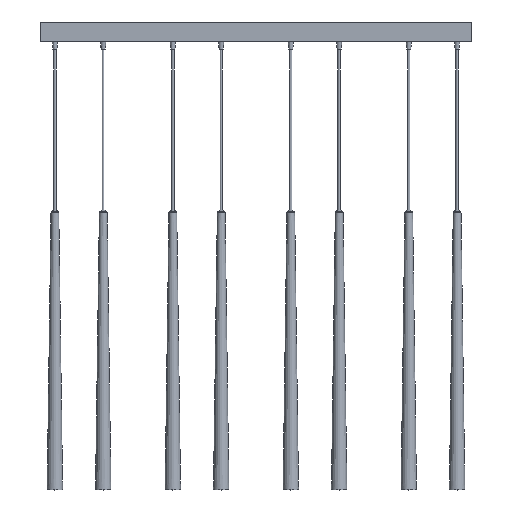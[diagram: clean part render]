
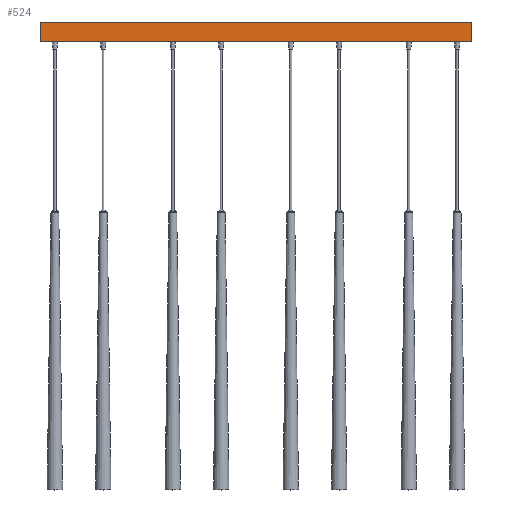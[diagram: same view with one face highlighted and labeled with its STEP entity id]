
A CAD part, top view. The second image highlights one B-rep face of the part: STEP entity #524.
In plain terms, the highlighted planar face has unit normal (0, 0, 1).
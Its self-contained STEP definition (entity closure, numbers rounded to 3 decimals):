
#84=PLANE('',#607);
#109=LINE('',#945,#141);
#112=LINE('',#951,#144);
#113=LINE('',#955,#145);
#114=LINE('',#956,#146);
#141=VECTOR('',#761,10.);
#144=VECTOR('',#766,10.);
#145=VECTOR('',#769,10.);
#146=VECTOR('',#770,10.);
#188=FACE_OUTER_BOUND('',#227,.T.);
#227=EDGE_LOOP('',(#462,#463,#464,#465,#466,#467));
#259=CIRCLE('',#604,2.);
#261=CIRCLE('',#608,2.);
#292=VERTEX_POINT('',#935);
#293=VERTEX_POINT('',#936);
#296=VERTEX_POINT('',#944);
#298=VERTEX_POINT('',#950);
#299=VERTEX_POINT('',#952);
#300=VERTEX_POINT('',#954);
#348=EDGE_CURVE('',#292,#293,#259,.T.);
#352=EDGE_CURVE('',#293,#296,#109,.T.);
#355=EDGE_CURVE('',#292,#298,#112,.T.);
#356=EDGE_CURVE('',#299,#298,#261,.T.);
#357=EDGE_CURVE('',#299,#300,#113,.T.);
#358=EDGE_CURVE('',#296,#300,#114,.T.);
#462=ORIENTED_EDGE('',*,*,#348,.F.);
#463=ORIENTED_EDGE('',*,*,#355,.T.);
#464=ORIENTED_EDGE('',*,*,#356,.F.);
#465=ORIENTED_EDGE('',*,*,#357,.T.);
#466=ORIENTED_EDGE('',*,*,#358,.F.);
#467=ORIENTED_EDGE('',*,*,#352,.F.);
#524=ADVANCED_FACE('',(#188),#84,.T.);
#604=AXIS2_PLACEMENT_3D('',#937,#753,#754);
#607=AXIS2_PLACEMENT_3D('',#949,#764,#765);
#608=AXIS2_PLACEMENT_3D('',#953,#767,#768);
#753=DIRECTION('center_axis',(0.,0.,-1.));
#754=DIRECTION('ref_axis',(-0.707,-0.707,0.));
#761=DIRECTION('',(0.,1.,0.));
#764=DIRECTION('center_axis',(0.,0.,1.));
#765=DIRECTION('ref_axis',(1.,0.,0.));
#766=DIRECTION('',(1.,0.,0.));
#767=DIRECTION('center_axis',(0.,0.,-1.));
#768=DIRECTION('ref_axis',(0.707,-0.707,0.));
#769=DIRECTION('',(0.,1.,0.));
#770=DIRECTION('',(1.,0.,0.));
#935=CARTESIAN_POINT('',(-555.5,0.,15.));
#936=CARTESIAN_POINT('',(-557.5,2.,15.));
#937=CARTESIAN_POINT('Origin',(-555.5,2.,15.));
#944=CARTESIAN_POINT('',(-557.5,50.,15.));
#945=CARTESIAN_POINT('',(-557.5,0.,15.));
#949=CARTESIAN_POINT('Origin',(-557.5,0.,15.));
#950=CARTESIAN_POINT('',(555.5,0.,15.));
#951=CARTESIAN_POINT('',(-557.5,0.,15.));
#952=CARTESIAN_POINT('',(557.5,2.,15.));
#953=CARTESIAN_POINT('Origin',(555.5,2.,15.));
#954=CARTESIAN_POINT('',(557.5,50.,15.));
#955=CARTESIAN_POINT('',(557.5,0.,15.));
#956=CARTESIAN_POINT('',(-557.5,50.,15.));
